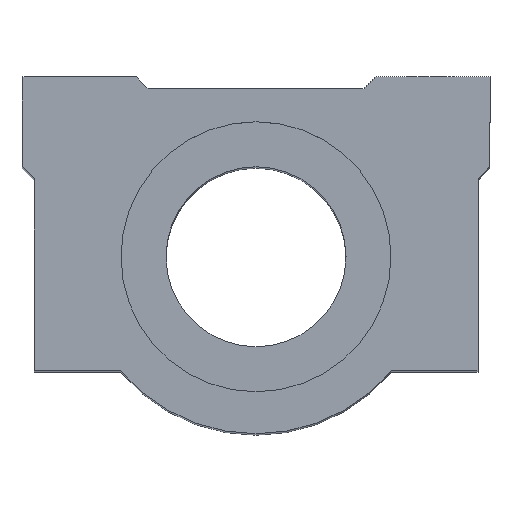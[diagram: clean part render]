
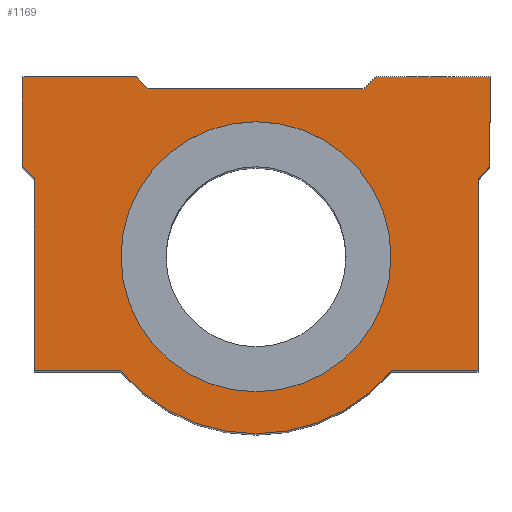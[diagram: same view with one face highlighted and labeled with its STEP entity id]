
A CAD part, top view. The second image highlights one B-rep face of the part: STEP entity #1169.
In plain terms, the highlighted planar face has unit normal (0, 0, 1).
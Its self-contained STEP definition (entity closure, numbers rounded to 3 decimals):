
#91=CARTESIAN_POINT('',(-23.209,4.198,144.0));
#92=VERTEX_POINT('',#91);
#101=CARTESIAN_POINT('',(21.791,4.198,144.));
#102=VERTEX_POINT('',#101);
#103=CARTESIAN_POINT('',(-0.709,4.198,144.));
#104=DIRECTION('',(0.0,0.0,-1.0));
#105=DIRECTION('',(-1.0,0.0,0.0));
#106=AXIS2_PLACEMENT_3D('',#103,#104,#105);
#107=CIRCLE('',#106,22.5);
#108=EDGE_CURVE('',#102,#92,#107,.T.);
#640=CARTESIAN_POINT('',(-0.709,4.198,144.));
#641=DIRECTION('',(0.0,0.0,-1.0));
#642=DIRECTION('',(-1.0,0.0,0.0));
#643=AXIS2_PLACEMENT_3D('',#640,#641,#642);
#644=CIRCLE('',#643,22.5);
#645=EDGE_CURVE('',#92,#102,#644,.T.);
#780=CARTESIAN_POINT('',(38.291,19.198,144.));
#781=VERTEX_POINT('',#780);
#782=CARTESIAN_POINT('',(36.291,17.198,144.));
#783=VERTEX_POINT('',#782);
#784=CARTESIAN_POINT('',(38.291,19.198,144.));
#785=DIRECTION('',(-0.707,-0.707,0.0));
#786=VECTOR('',#785,2.828);
#787=LINE('',#784,#786);
#788=EDGE_CURVE('',#781,#783,#787,.T.);
#811=CARTESIAN_POINT('',(36.291,-14.802,144.));
#812=VERTEX_POINT('',#811);
#813=CARTESIAN_POINT('',(36.291,17.198,144.));
#814=DIRECTION('',(0.0,-1.0,0.0));
#815=VECTOR('',#814,32.);
#816=LINE('',#813,#815);
#817=EDGE_CURVE('',#783,#812,#816,.T.);
#835=CARTESIAN_POINT('',(21.858,-14.802,144.));
#836=VERTEX_POINT('',#835);
#837=CARTESIAN_POINT('',(36.291,-14.802,144.));
#838=DIRECTION('',(-1.0,0.0,0.0));
#839=VECTOR('',#838,14.433);
#840=LINE('',#837,#839);
#841=EDGE_CURVE('',#812,#836,#840,.T.);
#867=CARTESIAN_POINT('',(-23.275,-14.802,144.));
#868=VERTEX_POINT('',#867);
#869=CARTESIAN_POINT('',(-0.709,4.198,144.));
#870=DIRECTION('',(0.0,0.0,-1.0));
#871=DIRECTION('',(0.765,0.644,0.0));
#872=AXIS2_PLACEMENT_3D('',#869,#870,#871);
#873=CIRCLE('',#872,29.5);
#874=EDGE_CURVE('',#836,#868,#873,.T.);
#892=CARTESIAN_POINT('',(-37.709,-14.802,144.));
#893=VERTEX_POINT('',#892);
#894=CARTESIAN_POINT('',(-23.275,-14.802,144.));
#895=DIRECTION('',(-1.0,0.0,0.0));
#896=VECTOR('',#895,14.433);
#897=LINE('',#894,#896);
#898=EDGE_CURVE('',#868,#893,#897,.T.);
#924=CARTESIAN_POINT('',(-37.709,17.198,144.));
#925=VERTEX_POINT('',#924);
#926=CARTESIAN_POINT('',(-37.709,-14.802,144.));
#927=DIRECTION('',(0.0,1.0,0.0));
#928=VECTOR('',#927,32.);
#929=LINE('',#926,#928);
#930=EDGE_CURVE('',#893,#925,#929,.T.);
#948=CARTESIAN_POINT('',(-39.709,19.198,144.));
#949=VERTEX_POINT('',#948);
#950=CARTESIAN_POINT('',(-37.709,17.198,144.));
#951=DIRECTION('',(-0.707,0.707,0.0));
#952=VECTOR('',#951,2.828);
#953=LINE('',#950,#952);
#954=EDGE_CURVE('',#925,#949,#953,.T.);
#972=CARTESIAN_POINT('',(-39.709,34.198,144.));
#973=VERTEX_POINT('',#972);
#974=CARTESIAN_POINT('',(-39.709,19.198,144.));
#975=DIRECTION('',(0.0,1.0,0.0));
#976=VECTOR('',#975,15.0);
#977=LINE('',#974,#976);
#978=EDGE_CURVE('',#949,#973,#977,.T.);
#996=CARTESIAN_POINT('',(-20.709,34.198,144.));
#997=VERTEX_POINT('',#996);
#998=CARTESIAN_POINT('',(-39.709,34.198,144.));
#999=DIRECTION('',(1.0,0.0,0.0));
#1000=VECTOR('',#999,19.);
#1001=LINE('',#998,#1000);
#1002=EDGE_CURVE('',#973,#997,#1001,.T.);
#1028=CARTESIAN_POINT('',(-18.709,32.198,144.));
#1029=VERTEX_POINT('',#1028);
#1030=CARTESIAN_POINT('',(-20.709,34.198,144.));
#1031=DIRECTION('',(0.707,-0.707,0.0));
#1032=VECTOR('',#1031,2.828);
#1033=LINE('',#1030,#1032);
#1034=EDGE_CURVE('',#997,#1029,#1033,.T.);
#1052=CARTESIAN_POINT('',(17.291,32.198,144.));
#1053=VERTEX_POINT('',#1052);
#1054=CARTESIAN_POINT('',(-18.709,32.198,144.));
#1055=DIRECTION('',(1.0,0.0,0.0));
#1056=VECTOR('',#1055,36.);
#1057=LINE('',#1054,#1056);
#1058=EDGE_CURVE('',#1029,#1053,#1057,.T.);
#1076=CARTESIAN_POINT('',(19.291,34.198,144.));
#1077=VERTEX_POINT('',#1076);
#1078=CARTESIAN_POINT('',(17.291,32.198,144.));
#1079=DIRECTION('',(0.707,0.707,0.0));
#1080=VECTOR('',#1079,2.828);
#1081=LINE('',#1078,#1080);
#1082=EDGE_CURVE('',#1053,#1077,#1081,.T.);
#1100=CARTESIAN_POINT('',(38.291,34.198,144.));
#1101=VERTEX_POINT('',#1100);
#1102=CARTESIAN_POINT('',(19.291,34.198,144.));
#1103=DIRECTION('',(1.0,0.0,0.0));
#1104=VECTOR('',#1103,19.);
#1105=LINE('',#1102,#1104);
#1106=EDGE_CURVE('',#1077,#1101,#1105,.T.);
#1132=CARTESIAN_POINT('',(38.291,34.198,144.));
#1133=DIRECTION('',(0.0,-1.0,0.0));
#1134=VECTOR('',#1133,15.);
#1135=LINE('',#1132,#1134);
#1136=EDGE_CURVE('',#1101,#781,#1135,.T.);
#1144=CARTESIAN_POINT('',(-0.709,8.165,144.));
#1145=DIRECTION('',(0.0,0.0,1.0));
#1146=DIRECTION('',(1.0,0.0,0.0));
#1147=AXIS2_PLACEMENT_3D('',#1144,#1145,#1146);
#1148=PLANE('',#1147);
#1149=ORIENTED_EDGE('',*,*,#788,.F.);
#1150=ORIENTED_EDGE('',*,*,#1136,.F.);
#1151=ORIENTED_EDGE('',*,*,#1106,.F.);
#1152=ORIENTED_EDGE('',*,*,#1082,.F.);
#1153=ORIENTED_EDGE('',*,*,#1058,.F.);
#1154=ORIENTED_EDGE('',*,*,#1034,.F.);
#1155=ORIENTED_EDGE('',*,*,#1002,.F.);
#1156=ORIENTED_EDGE('',*,*,#978,.F.);
#1157=ORIENTED_EDGE('',*,*,#954,.F.);
#1158=ORIENTED_EDGE('',*,*,#930,.F.);
#1159=ORIENTED_EDGE('',*,*,#898,.F.);
#1160=ORIENTED_EDGE('',*,*,#874,.F.);
#1161=ORIENTED_EDGE('',*,*,#841,.F.);
#1162=ORIENTED_EDGE('',*,*,#817,.F.);
#1163=EDGE_LOOP('',(#1149,#1150,#1151,#1152,#1153,#1154,#1155,#1156,#1157,#1158,#1159,#1160,#1161,#1162));
#1164=FACE_OUTER_BOUND('',#1163,.T.);
#1165=ORIENTED_EDGE('',*,*,#108,.T.);
#1166=ORIENTED_EDGE('',*,*,#645,.T.);
#1167=EDGE_LOOP('',(#1165,#1166));
#1168=FACE_BOUND('',#1167,.T.);
#1169=ADVANCED_FACE('',(#1164,#1168),#1148,.T.);
